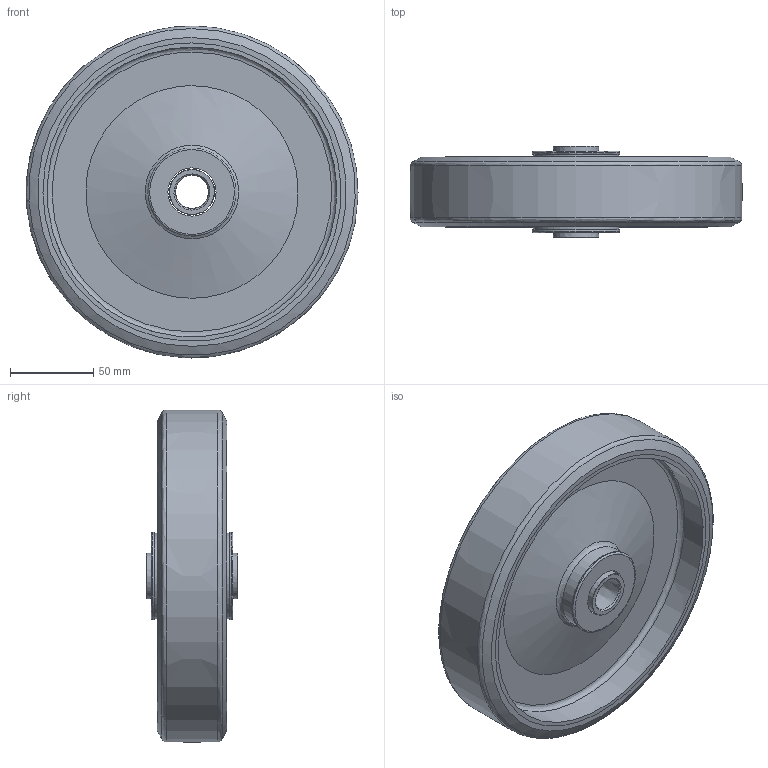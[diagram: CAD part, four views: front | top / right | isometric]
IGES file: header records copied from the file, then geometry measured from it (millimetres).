
Start section: JAMA-IS VERSION  1.0
Bounding box: 200 x 55 x 200 mm (x, y, z)
Surface area: 238416.9 mm2 (no closed solid volume)
Topology: 0 solids, 0 shells, 127 faces, 581 edges, 645 vertices
Faces by surface type: bspline 127
